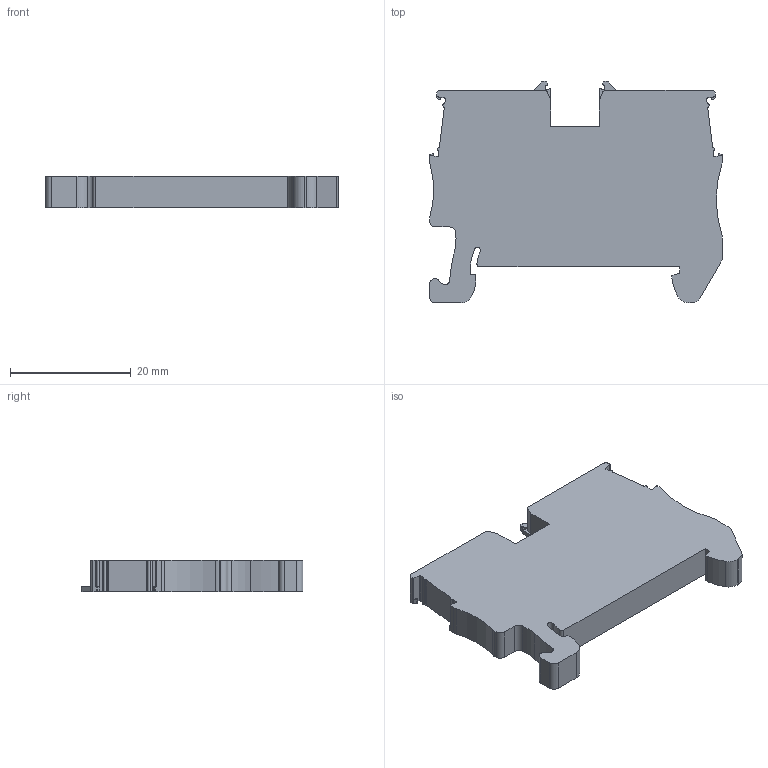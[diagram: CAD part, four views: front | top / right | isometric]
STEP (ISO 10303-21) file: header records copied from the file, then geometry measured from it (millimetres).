
FILE_DESCRIPTION(('SolidDesigner STEP Export'),'2;1');
FILE_NAME('3211027_PT_2.5_S_QUATTRO_CUS-select.stp','2015-06-18T11:58:50',(''),(''),'Creo Elements/Direct Modeling STEP processor for AP214 (Solid Model)','Creo Elements/Direct Modeling 18.1 06-May-2012 (C) Parametric Technology GmbH','');
FILE_SCHEMA(('AUTOMOTIVE_DESIGN { 1 0 10303 214 1 1 1 1 }'));
Length unit declared in the file: millimetre
Products named in the file (2): 3211027_PT_2.5_S_QUATTRO_CUS-select
Assembly tree (1 placements, depth 2):
  3211027_PT_2.5_S_QUATTRO_CUS-select
    3211027_PT_2.5_S_QUATTRO_CUS-select
Bounding box: 48.6 x 36.8 x 5.15 mm (x, y, z)
Volume: 6709.4 mm3; surface area: 4058.9 mm2
Topology: 1 solids, 2 shells, 201 faces, 569 edges, 380 vertices
Faces by surface type: plane 116, cylinder 83, extrusion 2
Entity records: 8263 total; most frequent: CARTESIAN_POINT 1301, ORIENTED_EDGE 1138, DIRECTION 1099, EDGE_CURVE 569, VECTOR 393, LINE 391, VERTEX_POINT 380, AXIS2_PLACEMENT_3D 353
